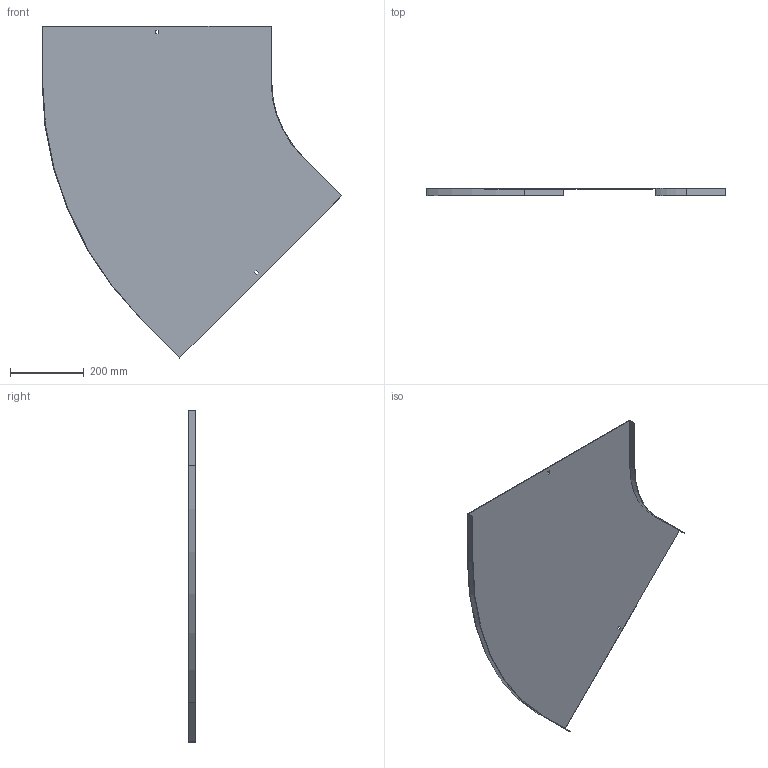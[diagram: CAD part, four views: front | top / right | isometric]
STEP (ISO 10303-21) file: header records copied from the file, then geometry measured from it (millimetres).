
FILE_DESCRIPTION (( 'STEP AP214' ), '1' );
FILE_NAME ('11N3P600.step', '2025-02-21T13:35:07', ( '' ), ( '' ), 'SwSTEP 2.0', 'SolidWorks 2023', '' );
FILE_SCHEMA (( 'AUTOMOTIVE_DESIGN' ));
Length unit declared in the file: millimetre
Products named in the file (1): 11N3P600
Bounding box: 813.57 x 20 x 900.59 mm (x, y, z)
Volume: 763351 mm3; surface area: 1022188.1 mm2
Topology: 1 solids, 1 shells, 26 faces, 72 edges, 48 vertices
Faces by surface type: plane 22, cylinder 4
Entity records: 855 total; most frequent: CARTESIAN_POINT 147, ORIENTED_EDGE 144, DIRECTION 134, EDGE_CURVE 72, LINE 64, VECTOR 64, VERTEX_POINT 48, AXIS2_PLACEMENT_3D 35
